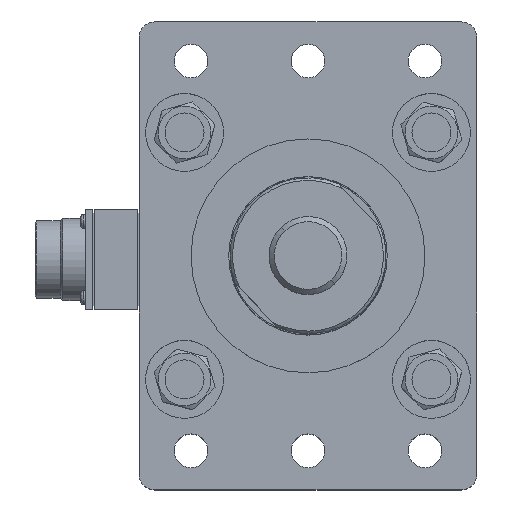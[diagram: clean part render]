
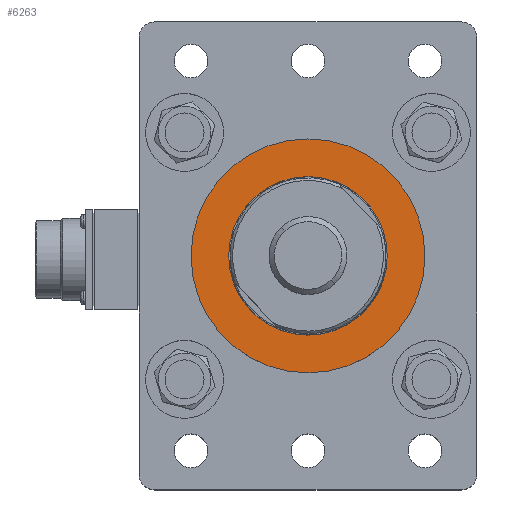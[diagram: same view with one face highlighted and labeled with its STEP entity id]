
A CAD part, top view. The second image highlights one B-rep face of the part: STEP entity #6263.
In plain terms, the highlighted planar face has unit normal (0, 0, 1).
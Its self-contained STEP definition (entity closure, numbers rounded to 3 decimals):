
#21 = CARTESIAN_POINT ( 'NONE',  ( 20836.538, 4318.113, 45. ) ) ;
#307 = DIRECTION ( 'NONE',  ( 1., 0., 0. ) ) ;
#1474 = DIRECTION ( 'NONE',  ( 0., 0., 1. ) ) ;
#2934 = CIRCLE ( 'NONE', #26307, 30.5 ) ;
#4192 = DIRECTION ( 'NONE',  ( 1., 0., 0. ) ) ;
#5696 = EDGE_CURVE ( 'NONE', #10196, #33427, #2934, .T. ) ;
#6025 = DIRECTION ( 'NONE',  ( -1., 0., 0. ) ) ;
#6261 = DIRECTION ( 'NONE',  ( 0., 0., -1. ) ) ;
#6263 = ADVANCED_FACE ( 'NONE', ( #35233, #15777 ), #28965, .T. ) ;
#10196 = VERTEX_POINT ( 'NONE', #18263 ) ;
#12016 = EDGE_CURVE ( 'NONE', #13514, #35256, #30673, .T. ) ;
#12919 = CARTESIAN_POINT ( 'NONE',  ( 20836.538, 4318.113, 45. ) ) ;
#13197 = AXIS2_PLACEMENT_3D ( 'NONE', #14403, #1474, #4192 ) ;
#13514 = VERTEX_POINT ( 'NONE', #15055 ) ;
#13715 = EDGE_CURVE ( 'NONE', #33427, #10196, #18251, .T. ) ;
#14403 = CARTESIAN_POINT ( 'NONE',  ( 20836.538, 4318.113, 45. ) ) ;
#15055 = CARTESIAN_POINT ( 'NONE',  ( 20791.538, 4318.113, 45. ) ) ;
#15614 = CARTESIAN_POINT ( 'NONE',  ( 20836.538, 4318.113, 45. ) ) ;
#15777 = FACE_OUTER_BOUND ( 'NONE', #39457, .T. ) ;
#15852 = ORIENTED_EDGE ( 'NONE', *, *, #12016, .T. ) ;
#16298 = DIRECTION ( 'NONE',  ( 0., 0., 1. ) ) ;
#18251 = CIRCLE ( 'NONE', #28283, 30.5 ) ;
#18263 = CARTESIAN_POINT ( 'NONE',  ( 20806.038, 4318.113, 45. ) ) ;
#19007 = DIRECTION ( 'NONE',  ( -1., 0., 0. ) ) ;
#19120 = CARTESIAN_POINT ( 'NONE',  ( 0., 0., 45. ) ) ;
#22115 = DIRECTION ( 'NONE',  ( 0., 0., -1. ) ) ;
#25423 = DIRECTION ( 'NONE',  ( 0., 0., 1. ) ) ;
#26307 = AXIS2_PLACEMENT_3D ( 'NONE', #15614, #22115, #6025 ) ;
#28283 = AXIS2_PLACEMENT_3D ( 'NONE', #12919, #6261, #19007 ) ;
#28965 = PLANE ( 'NONE',  #38251 ) ;
#29115 = CARTESIAN_POINT ( 'NONE',  ( 20867.038, 4318.113, 45. ) ) ;
#30673 = CIRCLE ( 'NONE', #37347, 45. ) ;
#32395 = DIRECTION ( 'NONE',  ( 1., 0., 0. ) ) ;
#33427 = VERTEX_POINT ( 'NONE', #29115 ) ;
#34245 = ORIENTED_EDGE ( 'NONE', *, *, #13715, .T. ) ;
#34443 = EDGE_LOOP ( 'NONE', ( #37809, #34245 ) ) ;
#35179 = EDGE_CURVE ( 'NONE', #35256, #13514, #35262, .T. ) ;
#35233 = FACE_BOUND ( 'NONE', #34443, .T. ) ;
#35256 = VERTEX_POINT ( 'NONE', #36382 ) ;
#35262 = CIRCLE ( 'NONE', #13197, 45. ) ;
#36382 = CARTESIAN_POINT ( 'NONE',  ( 20881.538, 4318.113, 45. ) ) ;
#37347 = AXIS2_PLACEMENT_3D ( 'NONE', #21, #16298, #32395 ) ;
#37809 = ORIENTED_EDGE ( 'NONE', *, *, #5696, .T. ) ;
#38251 = AXIS2_PLACEMENT_3D ( 'NONE', #19120, #25423, #307 ) ;
#39298 = ORIENTED_EDGE ( 'NONE', *, *, #35179, .T. ) ;
#39457 = EDGE_LOOP ( 'NONE', ( #39298, #15852 ) ) ;
